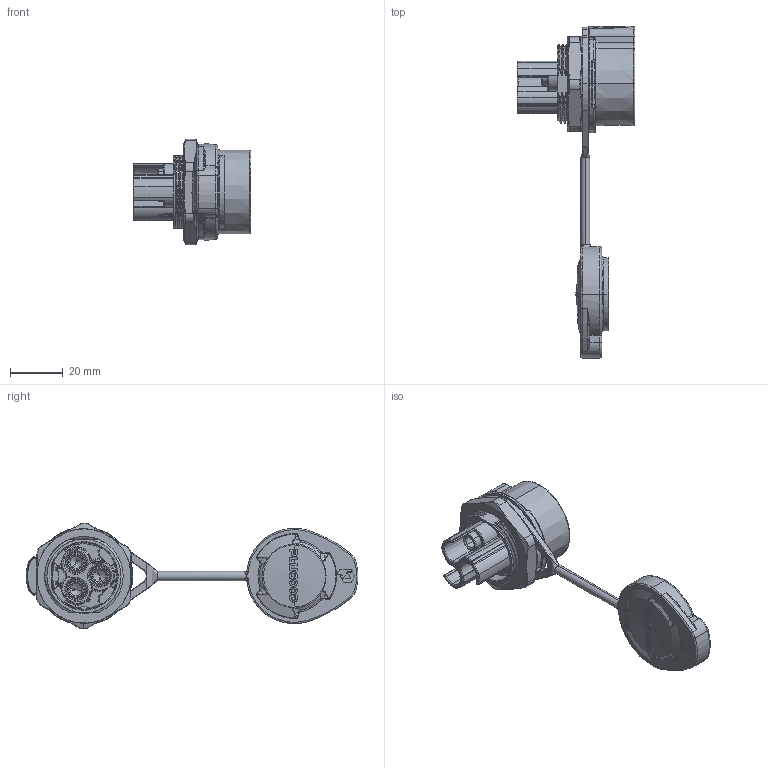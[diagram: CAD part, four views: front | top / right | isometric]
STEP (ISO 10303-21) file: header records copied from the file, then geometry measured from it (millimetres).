
FILE_DESCRIPTION (( 'STEP AP203' ), '1' );
FILE_NAME ('PLG28 3芯单孔插座正装金属.STEP', '2026-05-14T09:03:50', ( '微软用户' ), ( '微软中国' ), 'SwSTEP 2.0', 'SolidWorks 2024', '' );
FILE_SCHEMA (( 'CONFIG_CONTROL_DESIGN' ));
Length unit declared in the file: millimetre
Products named in the file (1): PLG28 3芯单孔插座正装金属
Bounding box: 44.8 x 126.27 x 40.21 mm (x, y, z)
Volume: 27084 mm3; surface area: 22689.4 mm2
Topology: 14 solids, 17 shells, 1972 faces, 5117 edges, 3067 vertices
Faces by surface type: plane 596, torus 455, cylinder 406, bspline 344, cone 122, sphere 49
Entity records: 77847 total; most frequent: CARTESIAN_POINT 32708, ORIENTED_EDGE 10150, DIRECTION 8805, EDGE_CURVE 5075, AXIS2_PLACEMENT_3D 3682, VERTEX_POINT 3067, EDGE_LOOP 2056, CIRCLE 2053
